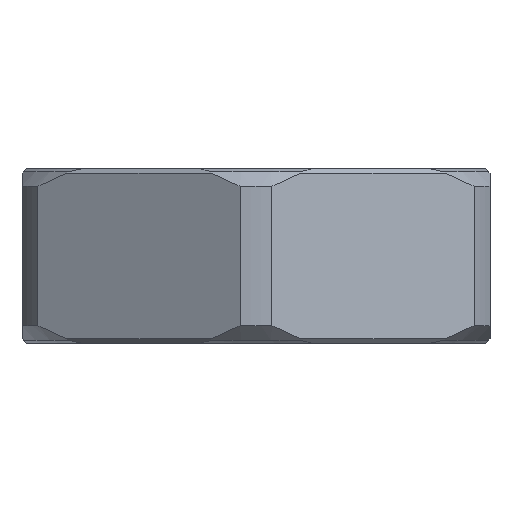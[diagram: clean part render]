
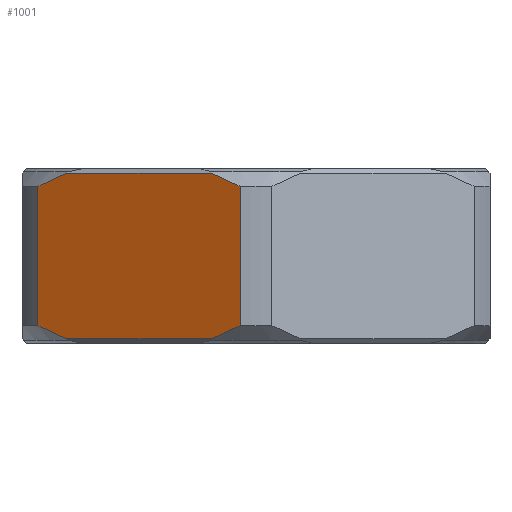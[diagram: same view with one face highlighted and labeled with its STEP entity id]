
A CAD part, left-side view. The second image highlights one B-rep face of the part: STEP entity #1001.
In plain terms, the highlighted planar face has unit normal (-0.866, 0.5, 0).
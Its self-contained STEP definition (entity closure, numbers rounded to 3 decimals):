
#1001 = ADVANCED_FACE( '', ( #2032 ), #2033, .T. );
#2032 = FACE_OUTER_BOUND( '', #3106, .T. );
#2033 = PLANE( '', #3107 );
#3106 = EDGE_LOOP( '', ( #6674, #6675, #6676, #6677, #6678, #6679, #6680, #6681 ) );
#3107 = AXIS2_PLACEMENT_3D( '', #6682, #6683, #6684 );
#6674 = ORIENTED_EDGE( '', *, *, #8093, .F. );
#6675 = ORIENTED_EDGE( '', *, *, #6990, .T. );
#6676 = ORIENTED_EDGE( '', *, *, #8021, .F. );
#6677 = ORIENTED_EDGE( '', *, *, #7699, .F. );
#6678 = ORIENTED_EDGE( '', *, *, #7378, .F. );
#6679 = ORIENTED_EDGE( '', *, *, #8166, .T. );
#6680 = ORIENTED_EDGE( '', *, *, #7903, .F. );
#6681 = ORIENTED_EDGE( '', *, *, #7532, .F. );
#6682 = CARTESIAN_POINT( '', ( -15.5, 0., 678.63 ) );
#6683 = DIRECTION( '', ( -0.866, 0.5, 0. ) );
#6684 = DIRECTION( '', ( -0.5, -0.866, 0. ) );
#6990 = EDGE_CURVE( '', #8296, #8297, #8298, .T. );
#7378 = EDGE_CURVE( '', #8945, #8947, #8948, .T. );
#7532 = EDGE_CURVE( '', #9197, #9199, #9200, .F. );
#7699 = EDGE_CURVE( '', #8947, #9446, #9448, .T. );
#7903 = EDGE_CURVE( '', #9199, #9718, #9719, .T. );
#8021 = EDGE_CURVE( '', #9446, #8297, #9857, .T. );
#8093 = EDGE_CURVE( '', #8296, #9197, #9938, .T. );
#8166 = EDGE_CURVE( '', #8945, #9718, #10014, .T. );
#8296 = VERTEX_POINT( '', #10400 );
#8297 = VERTEX_POINT( '', #10401 );
#8298 = LINE( '', #10402, #10403 );
#8945 = VERTEX_POINT( '', #11668 );
#8947 = VERTEX_POINT( '', #11673 );
#8948 = B_SPLINE_CURVE_WITH_KNOTS( '', 3, ( #11674, #11675, #11676, #11677 ), .UNSPECIFIED., .F., .F., ( 4, 4 ), ( 0.026, 0.028 ), .UNSPECIFIED. );
#9197 = VERTEX_POINT( '', #12085 );
#9199 = VERTEX_POINT( '', #12087 );
#9200 = LINE( '', #12088, #12089 );
#9446 = VERTEX_POINT( '', #12597 );
#9448 = LINE( '', #12599, #12600 );
#9718 = VERTEX_POINT( '', #13166 );
#9719 = B_SPLINE_CURVE_WITH_KNOTS( '', 3, ( #13167, #13168, #13169, #13170 ), .UNSPECIFIED., .F., .F., ( 4, 4 ), ( 0.014, 0.016 ), .UNSPECIFIED. );
#9857 = B_SPLINE_CURVE_WITH_KNOTS( '', 3, ( #13636, #13637, #13638, #13639 ), .UNSPECIFIED., .F., .F., ( 4, 4 ), ( 0.014, 0.016 ), .UNSPECIFIED. );
#9938 = B_SPLINE_CURVE_WITH_KNOTS( '', 3, ( #13756, #13757, #13758, #13759 ), .UNSPECIFIED., .F., .F., ( 4, 4 ), ( 0.026, 0.028 ), .UNSPECIFIED. );
#10014 = LINE( '', #13863, #13864 );
#10400 = CARTESIAN_POINT( '', ( -9.234, 10.854, -4.75 ) );
#10401 = CARTESIAN_POINT( '', ( -14.016, 2.57, -4.75 ) );
#10402 = CARTESIAN_POINT( '', ( -15.5, 0., -4.75 ) );
#10403 = VECTOR( '', #13933, 1000. );
#11668 = CARTESIAN_POINT( '', ( -14.016, 2.57, 4.75 ) );
#11673 = CARTESIAN_POINT( '', ( -14.972, 0.914, 4. ) );
#11674 = CARTESIAN_POINT( '', ( -14.016, 2.57, 4.75 ) );
#11675 = CARTESIAN_POINT( '', ( -14.34, 2.009, 4.533 ) );
#11676 = CARTESIAN_POINT( '', ( -14.661, 1.454, 4.278 ) );
#11677 = CARTESIAN_POINT( '', ( -14.972, 0.914, 4. ) );
#12085 = CARTESIAN_POINT( '', ( -8.278, 12.509, -4. ) );
#12087 = CARTESIAN_POINT( '', ( -8.278, 12.509, 4. ) );
#12088 = CARTESIAN_POINT( '', ( -8.278, 12.509, 5. ) );
#12089 = VECTOR( '', #14536, 1000. );
#12597 = CARTESIAN_POINT( '', ( -14.972, 0.914, -4. ) );
#12599 = CARTESIAN_POINT( '', ( -14.972, 0.914, 5. ) );
#12600 = VECTOR( '', #14685, 1000. );
#13166 = CARTESIAN_POINT( '', ( -9.234, 10.854, 4.75 ) );
#13167 = CARTESIAN_POINT( '', ( -8.278, 12.509, 4. ) );
#13168 = CARTESIAN_POINT( '', ( -8.591, 11.968, 4.279 ) );
#13169 = CARTESIAN_POINT( '', ( -8.909, 11.417, 4.532 ) );
#13170 = CARTESIAN_POINT( '', ( -9.234, 10.854, 4.75 ) );
#13636 = CARTESIAN_POINT( '', ( -14.972, 0.914, -4. ) );
#13637 = CARTESIAN_POINT( '', ( -14.659, 1.456, -4.279 ) );
#13638 = CARTESIAN_POINT( '', ( -14.341, 2.007, -4.532 ) );
#13639 = CARTESIAN_POINT( '', ( -14.016, 2.57, -4.75 ) );
#13756 = CARTESIAN_POINT( '', ( -9.234, 10.854, -4.75 ) );
#13757 = CARTESIAN_POINT( '', ( -8.91, 11.414, -4.533 ) );
#13758 = CARTESIAN_POINT( '', ( -8.589, 11.969, -4.278 ) );
#13759 = CARTESIAN_POINT( '', ( -8.278, 12.509, -4. ) );
#13863 = CARTESIAN_POINT( '', ( -9.637, 10.155, 4.75 ) );
#13864 = VECTOR( '', #15042, 1000. );
#13933 = DIRECTION( '', ( -0.5, -0.866, 0. ) );
#14536 = DIRECTION( '', ( 0., 0., -1. ) );
#14685 = DIRECTION( '', ( 0., 0., -1. ) );
#15042 = DIRECTION( '', ( 0.5, 0.866, 0. ) );
